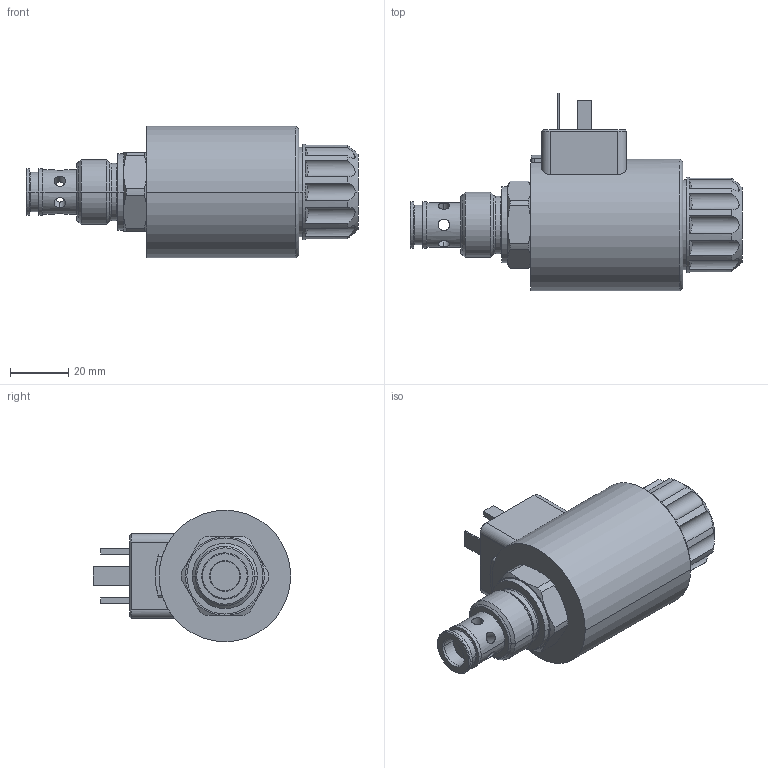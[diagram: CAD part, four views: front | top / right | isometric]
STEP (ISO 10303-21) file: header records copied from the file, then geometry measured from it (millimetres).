
FILE_DESCRIPTION((''),'2;1');
FILE_NAME('SD2E_B2_HXTP_E1_V002','2014-08-22T',('j.koudelka'),(''),'PRO/ENGINEER BY PARAMETRIC TECHNOLOGY CORPORATION, 2014090','PRO/ENGINEER BY PARAMETRIC TECHNOLOGY CORPORATION, 2014090','');
FILE_SCHEMA(('AUTOMOTIVE_DESIGN { 1 0 10303 214 1 1 1 1 }'));
Length unit declared in the file: millimetre
Products named in the file (1): SD2E_B2_HXTP_E1_V002
Bounding box: 113.55 x 67.5 x 45 mm (x, y, z)
Volume: 119845.4 mm3; surface area: 18992.6 mm2
Topology: 1 solids, 3 shells, 176 faces, 456 edges, 315 vertices
Faces by surface type: cylinder 69, plane 55, cone 42, torus 10
Entity records: 8358 total; most frequent: CARTESIAN_POINT 2983, DIRECTION 908, ORIENTED_EDGE 854, EDGE_CURVE 431, AXIS2_PLACEMENT_3D 347, VERTEX_POINT 269, VECTOR 214, LINE 214
